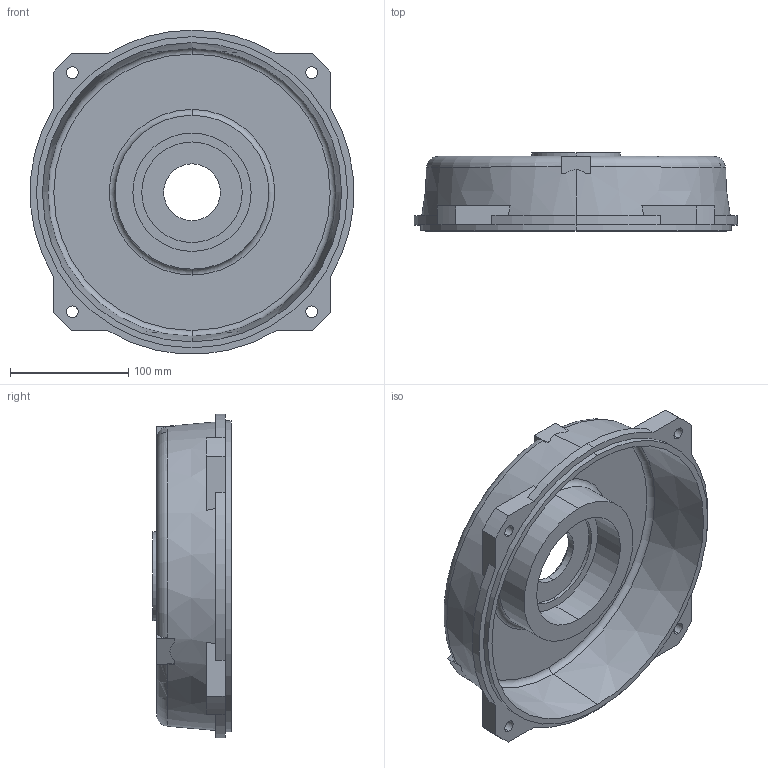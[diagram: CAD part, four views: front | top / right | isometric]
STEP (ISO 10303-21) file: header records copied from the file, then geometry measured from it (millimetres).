
FILE_DESCRIPTION (( 'STEP AP203' ), '1' );
FILE_NAME ('160B3裔.STEP', '2023-02-21T10:23:25', ( '' ), ( '' ), 'SwSTEP 2.0', 'SolidWorks 2018', '' );
FILE_SCHEMA (( 'CONFIG_CONTROL_DESIGN' ));
Length unit declared in the file: millimetre
Products named in the file (1): 160B3裔
Bounding box: 273.17 x 66 x 273.58 mm (x, y, z)
Volume: 794483.9 mm3; surface area: 234913.4 mm2
Topology: 1 solids, 1 shells, 82 faces, 215 edges, 142 vertices
Faces by surface type: plane 40, cylinder 31, torus 7, cone 4
Entity records: 2869 total; most frequent: CARTESIAN_POINT 696, DIRECTION 454, ORIENTED_EDGE 430, EDGE_CURVE 215, AXIS2_PLACEMENT_3D 180, VERTEX_POINT 142, EDGE_LOOP 99, CIRCLE 97
